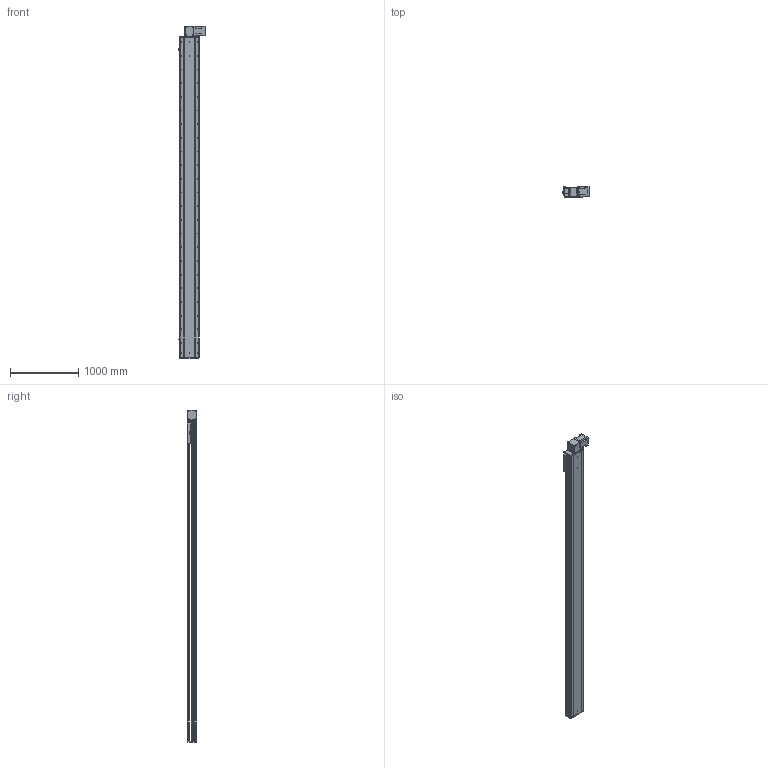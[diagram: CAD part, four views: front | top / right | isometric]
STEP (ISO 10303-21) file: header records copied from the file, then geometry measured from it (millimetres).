
FILE_DESCRIPTION (( 'STEP AP214' ), '1' );
FILE_NAME ('RTB28S-XX-4250-BL-M100-XX-C4.STEP', '2025-12-22T02:44:55', ( '' ), ( '' ), 'SwSTEP 2.0', 'SolidWorks 2018', '' );
FILE_SCHEMA (( 'AUTOMOTIVE_DESIGN' ));
Length unit declared in the file: millimetre
Products named in the file (4): RTB28S-GY-008^RTB28S-XX-XX-BL-M100-XX-C4; RTB28S-GY-004^RTB28S-XX-XX-BL-M100-XX-C4; RTB28S-GY-011^RTB28S-XX-XX-BL-M100-XX-C4; RTB28S-XX-4250-BL-M100-XX-C4
Assembly tree (3 placements, depth 2):
  RTB28S-XX-4250-BL-M100-XX-C4
    RTB28S-GY-011^RTB28S-XX-XX-BL-M100-XX-C4
    RTB28S-GY-004^RTB28S-XX-XX-BL-M100-XX-C4
    RTB28S-GY-008^RTB28S-XX-XX-BL-M100-XX-C4
Bounding box: 380.7 x 145 x 4857 mm (x, y, z)
Volume: 80797569.7 mm3; surface area: 7479501.4 mm2
Topology: 3 solids, 4 shells, 948 faces, 2568 edges, 1648 vertices
Faces by surface type: cylinder 487, plane 377, cone 80, torus 4
Entity records: 37289 total; most frequent: CARTESIAN_POINT 7402, DIRECTION 5478, ORIENTED_EDGE 5072, EDGE_CURVE 2536, AXIS2_PLACEMENT_3D 2044, VERTEX_POINT 1648, LINE 1390, VECTOR 1390
